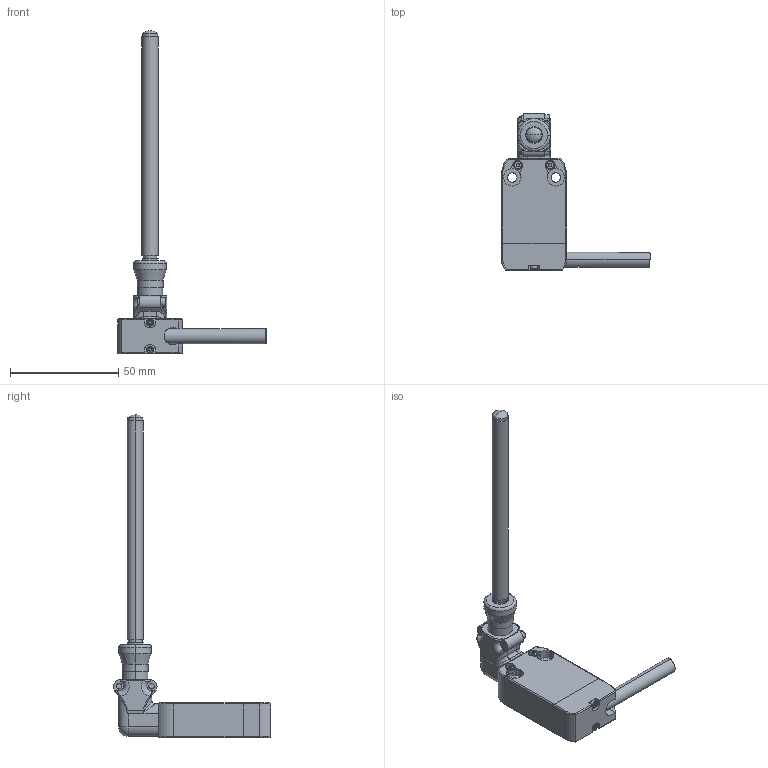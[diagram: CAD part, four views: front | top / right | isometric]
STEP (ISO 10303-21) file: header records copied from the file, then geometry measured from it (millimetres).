
FILE_DESCRIPTION (( 'STEP AP203' ), '1' );
FILE_NAME ('ZF_STEP_NF_xxx0HE-DNxW5.STEP', '2026-10-01T13:48:35', ( '' ), ( '' ), 'SwSTEP 2.0', 'SolidWorks 2023', '' );
FILE_SCHEMA (( 'CONFIG_CONTROL_DESIGN' ));
Length unit declared in the file: millimetre
Products named in the file (9): ZF_STEP_VN_A0000-W5; Pizzato_custodia_NA-NF_default; Pizzato_VN_AA0HE; Pizzato_VN_CxxxDNx_default; Pizzato_VN_A0000-W5; ZF_STEP_VN_CxxxDNx; Pizzato_custodia_NA-NF; ZF_STEP_VN_AA0HE; ZF_STEP_NF_xxx0HE-DNxW5
Assembly tree (8 placements, depth 3):
  ZF_STEP_NF_xxx0HE-DNxW5
    Pizzato_custodia_NA-NF
      Pizzato_custodia_NA-NF_default
    ZF_STEP_VN_AA0HE
      Pizzato_VN_AA0HE
    ZF_STEP_VN_CxxxDNx
      Pizzato_VN_CxxxDNx_default
    ZF_STEP_VN_A0000-W5
      Pizzato_VN_A0000-W5
Bounding box: 68.74 x 72.57 x 149.13 mm (x, y, z)
Volume: 37980 mm3; surface area: 14618.9 mm2
Topology: 4 solids, 4 shells, 665 faces, 1714 edges, 1113 vertices
Faces by surface type: plane 307, cylinder 190, bspline 132, torus 28, cone 6, sphere 2
Entity records: 25884 total; most frequent: CARTESIAN_POINT 9370, ORIENTED_EDGE 3420, DIRECTION 2923, EDGE_CURVE 1710, VERTEX_POINT 1113, LINE 979, VECTOR 979, AXIS2_PLACEMENT_3D 972
